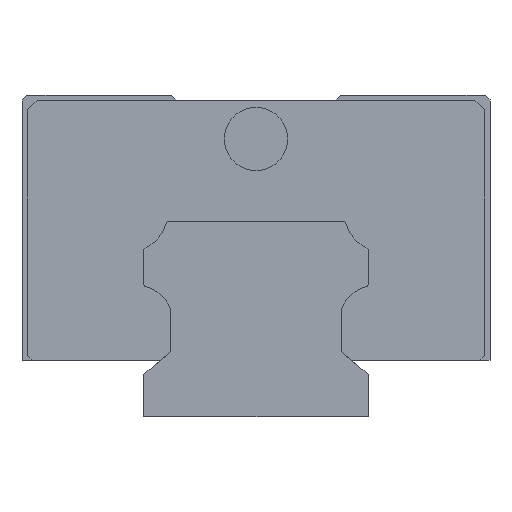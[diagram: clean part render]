
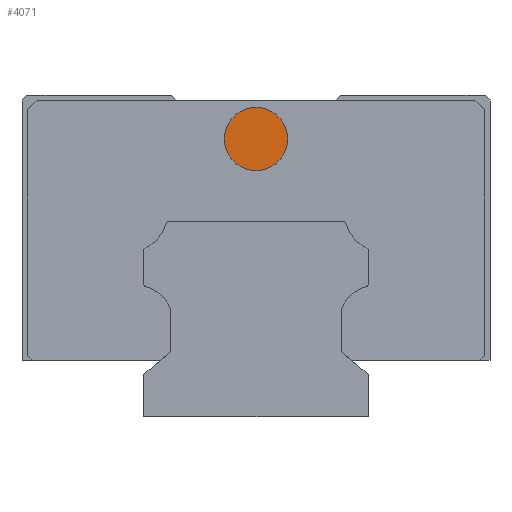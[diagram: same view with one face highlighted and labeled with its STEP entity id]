
A CAD part, left-side view. The second image highlights one B-rep face of the part: STEP entity #4071.
In plain terms, the highlighted planar face has unit normal (-1, 0, 0).
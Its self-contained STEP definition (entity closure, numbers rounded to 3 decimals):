
#269 = VERTEX_POINT ( 'NONE', #2133 ) ;
#711 = DIRECTION ( 'NONE',  ( 0., 1., 0. ) ) ;
#729 = EDGE_CURVE ( 'NONE', #3083, #269, #2054, .T. ) ;
#1014 = DIRECTION ( 'NONE',  ( 0., 1., 0. ) ) ;
#1042 = CIRCLE ( 'NONE', #3262, 3.25 ) ;
#1081 = PLANE ( 'NONE',  #2835 ) ;
#1348 = ORIENTED_EDGE ( 'NONE', *, *, #729, .F. ) ;
#1514 = FACE_OUTER_BOUND ( 'NONE', #2422, .T. ) ;
#1531 = EDGE_CURVE ( 'NONE', #269, #3083, #1042, .T. ) ;
#2054 = CIRCLE ( 'NONE', #5134, 3.25 ) ;
#2133 = CARTESIAN_POINT ( 'NONE',  ( -17.6, 3.25, 28.5 ) ) ;
#2390 = DIRECTION ( 'NONE',  ( 0., 1., 0. ) ) ;
#2422 = EDGE_LOOP ( 'NONE', ( #1348, #4643 ) ) ;
#2646 = CARTESIAN_POINT ( 'NONE',  ( -17.6, 0., 28.5 ) ) ;
#2793 = CARTESIAN_POINT ( 'NONE',  ( -17.6, 0., 28.5 ) ) ;
#2835 = AXIS2_PLACEMENT_3D ( 'NONE', #2793, #5278, #711 ) ;
#3083 = VERTEX_POINT ( 'NONE', #3144 ) ;
#3124 = DIRECTION ( 'NONE',  ( 1., 0., 0. ) ) ;
#3144 = CARTESIAN_POINT ( 'NONE',  ( -17.6, -3.25, 28.5 ) ) ;
#3262 = AXIS2_PLACEMENT_3D ( 'NONE', #2646, #3124, #1014 ) ;
#4000 = CARTESIAN_POINT ( 'NONE',  ( -17.6, 0., 28.5 ) ) ;
#4071 = ADVANCED_FACE ( 'NONE', ( #1514 ), #1081, .T. ) ;
#4643 = ORIENTED_EDGE ( 'NONE', *, *, #1531, .F. ) ;
#4963 = DIRECTION ( 'NONE',  ( 1., 0., 0. ) ) ;
#5134 = AXIS2_PLACEMENT_3D ( 'NONE', #4000, #4963, #2390 ) ;
#5278 = DIRECTION ( 'NONE',  ( -1., 0., 0. ) ) ;
